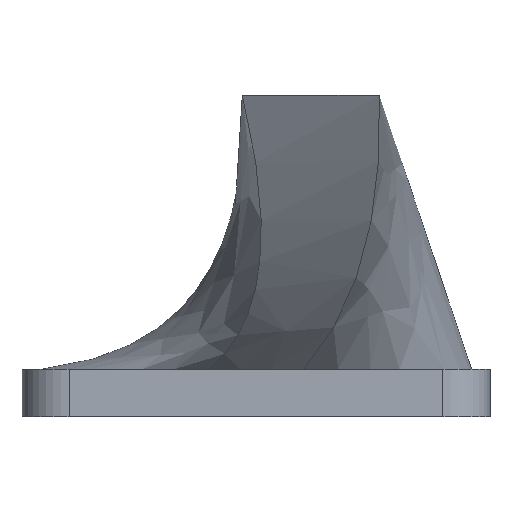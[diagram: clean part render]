
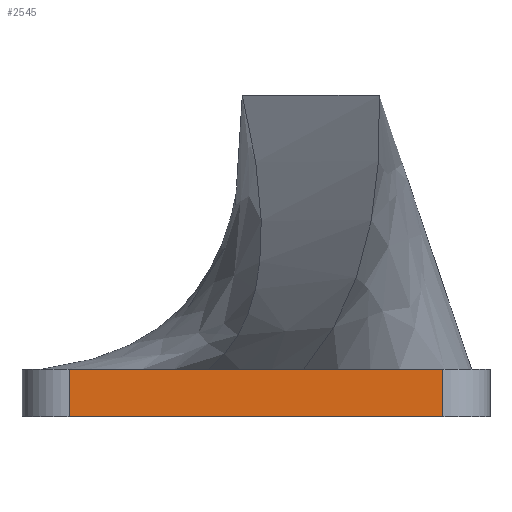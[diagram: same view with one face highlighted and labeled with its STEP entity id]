
A CAD part, front view. The second image highlights one B-rep face of the part: STEP entity #2545.
In plain terms, the highlighted planar face has unit normal (0, -1, 0).
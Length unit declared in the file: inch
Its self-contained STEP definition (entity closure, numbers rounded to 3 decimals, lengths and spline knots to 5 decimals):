
#814 = CARTESIAN_POINT ( 'NONE',  ( -49.06519, 24.11551, 0.1 ) ) ;
#840 = CARTESIAN_POINT ( 'NONE',  ( -51.11244, 24.11551, 0.1 ) ) ;
#1700 = EDGE_CURVE ( 'NONE', #12723, #6738, #5919, .T. ) ;
#2159 = CARTESIAN_POINT ( 'NONE',  ( 0., 24.11551, -0.15748 ) ) ;
#2545 = ADVANCED_FACE ( 'NONE', ( #3768 ), #9973, .F. ) ;
#2700 = DIRECTION ( 'NONE',  ( 0., 1., 0. ) ) ;
#2822 = VECTOR ( 'NONE', #3002, 39.37008 ) ;
#3002 = DIRECTION ( 'NONE',  ( 0., 0., -1. ) ) ;
#3768 = FACE_OUTER_BOUND ( 'NONE', #12526, .T. ) ;
#4185 = CARTESIAN_POINT ( 'NONE',  ( -49.06519, 24.11551, -0.15748 ) ) ;
#4643 = VECTOR ( 'NONE', #10293, 39.37008 ) ;
#4944 = CARTESIAN_POINT ( 'NONE',  ( -49.06519, 24.11551, 0.1 ) ) ;
#4995 = VERTEX_POINT ( 'NONE', #4185 ) ;
#5182 = ORIENTED_EDGE ( 'NONE', *, *, #11592, .T. ) ;
#5711 = VECTOR ( 'NONE', #10802, 39.37008 ) ;
#5919 = LINE ( 'NONE', #10116, #11370 ) ;
#5942 = LINE ( 'NONE', #4944, #2822 ) ;
#6062 = AXIS2_PLACEMENT_3D ( 'NONE', #840, #2700, #11967 ) ;
#6618 = CARTESIAN_POINT ( 'NONE',  ( -51.11244, 24.11551, 0.1 ) ) ;
#6738 = VERTEX_POINT ( 'NONE', #814 ) ;
#6990 = ORIENTED_EDGE ( 'NONE', *, *, #7676, .F. ) ;
#7676 = EDGE_CURVE ( 'NONE', #6738, #4995, #5942, .T. ) ;
#7935 = CARTESIAN_POINT ( 'NONE',  ( -51.11244, 24.11551, 0.1 ) ) ;
#9973 = PLANE ( 'NONE',  #6062 ) ;
#10116 = CARTESIAN_POINT ( 'NONE',  ( -51.11244, 24.11551, 0.1 ) ) ;
#10141 = ORIENTED_EDGE ( 'NONE', *, *, #12688, .F. ) ;
#10268 = VERTEX_POINT ( 'NONE', #12285 ) ;
#10293 = DIRECTION ( 'NONE',  ( -1., 0., 0. ) ) ;
#10802 = DIRECTION ( 'NONE',  ( 0., 0., -1. ) ) ;
#10851 = DIRECTION ( 'NONE',  ( 1., 0., 0. ) ) ;
#11289 = LINE ( 'NONE', #2159, #4643 ) ;
#11370 = VECTOR ( 'NONE', #10851, 39.37008 ) ;
#11592 = EDGE_CURVE ( 'NONE', #12723, #10268, #13001, .T. ) ;
#11967 = DIRECTION ( 'NONE',  ( 0., 0., 1. ) ) ;
#11993 = ORIENTED_EDGE ( 'NONE', *, *, #1700, .F. ) ;
#12285 = CARTESIAN_POINT ( 'NONE',  ( -51.11244, 24.11551, -0.15748 ) ) ;
#12526 = EDGE_LOOP ( 'NONE', ( #5182, #10141, #6990, #11993 ) ) ;
#12688 = EDGE_CURVE ( 'NONE', #4995, #10268, #11289, .T. ) ;
#12723 = VERTEX_POINT ( 'NONE', #6618 ) ;
#13001 = LINE ( 'NONE', #7935, #5711 ) ;
